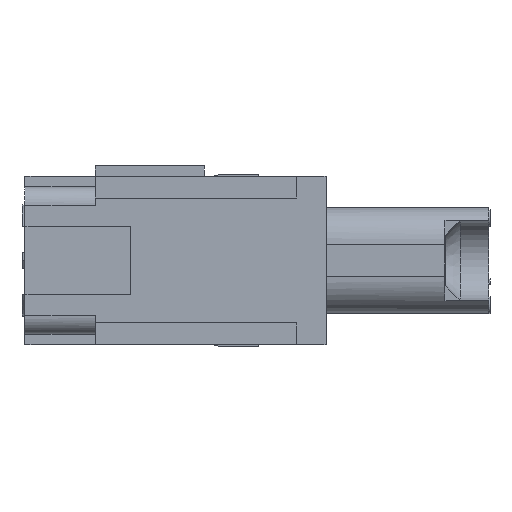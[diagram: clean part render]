
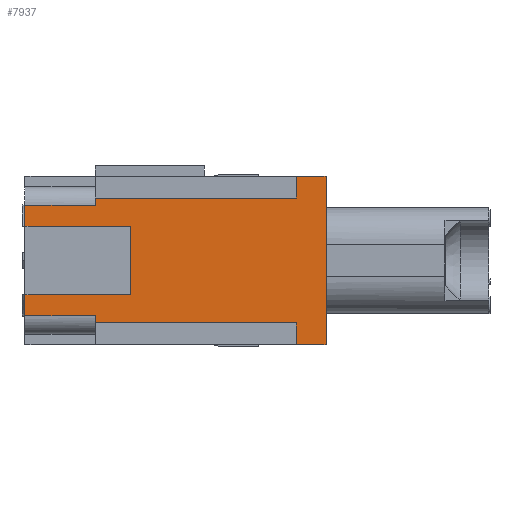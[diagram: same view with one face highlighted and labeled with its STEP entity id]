
A CAD part, left-side view. The second image highlights one B-rep face of the part: STEP entity #7937.
In plain terms, the highlighted planar face has unit normal (-1, 0, 0).
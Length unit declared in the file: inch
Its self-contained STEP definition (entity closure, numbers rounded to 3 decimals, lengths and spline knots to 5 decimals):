
#7244 = VERTEX_POINT ( 'NONE', #11221 ) ;
#7270 = EDGE_CURVE ( 'NONE', #7244, #7271, #11314, .T. ) ;
#7271 = VERTEX_POINT ( 'NONE', #11310 ) ;
#7750 = VERTEX_POINT ( 'NONE', #12521 ) ;
#7751 = EDGE_CURVE ( 'NONE', #7903, #7771, #12520, .T. ) ;
#7771 = VERTEX_POINT ( 'NONE', #12385 ) ;
#7773 = EDGE_CURVE ( 'NONE', #7750, #7774, #12574, .T. ) ;
#7774 = VERTEX_POINT ( 'NONE', #12570 ) ;
#7903 = VERTEX_POINT ( 'NONE', #12780 ) ;
#7921 = ORIENTED_EDGE ( 'NONE', *, *, #7270, .F. ) ;
#7922 = ORIENTED_EDGE ( 'NONE', *, *, #7923, .F. ) ;
#7923 = EDGE_CURVE ( 'NONE', #7924, #7244, #12745, .T. ) ;
#7924 = VERTEX_POINT ( 'NONE', #12741 ) ;
#7937 = ADVANCED_FACE ( 'NONE', ( #12662 ), #12661, .T. ) ;
#7938 = EDGE_LOOP ( 'NONE', ( #7921, #7922, #7947, #8032, #7988, #7990, #8025, #8028, #7939, #7941, #7942, #8035, #8037, #8040, #8047, #8050 ) ) ;
#7939 = ORIENTED_EDGE ( 'NONE', *, *, #7940, .F. ) ;
#7940 = EDGE_CURVE ( 'NONE', #7774, #8030, #12656, .T. ) ;
#7941 = ORIENTED_EDGE ( 'NONE', *, *, #7773, .F. ) ;
#7942 = ORIENTED_EDGE ( 'NONE', *, *, #7943, .T. ) ;
#7943 = EDGE_CURVE ( 'NONE', #7750, #7944, #12652, .T. ) ;
#7944 = VERTEX_POINT ( 'NONE', #12648 ) ;
#7945 = VERTEX_POINT ( 'NONE', #12647 ) ;
#7947 = ORIENTED_EDGE ( 'NONE', *, *, #7948, .T. ) ;
#7948 = EDGE_CURVE ( 'NONE', #7924, #8031, #12883, .T. ) ;
#7988 = ORIENTED_EDGE ( 'NONE', *, *, #7989, .T. ) ;
#7989 = EDGE_CURVE ( 'NONE', #8034, #7771, #13000, .T. ) ;
#7990 = ORIENTED_EDGE ( 'NONE', *, *, #7751, .F. ) ;
#8025 = ORIENTED_EDGE ( 'NONE', *, *, #8026, .T. ) ;
#8026 = EDGE_CURVE ( 'NONE', #7903, #8027, #12878, .T. ) ;
#8027 = VERTEX_POINT ( 'NONE', #12874 ) ;
#8028 = ORIENTED_EDGE ( 'NONE', *, *, #8029, .T. ) ;
#8029 = EDGE_CURVE ( 'NONE', #8027, #8030, #12873, .T. ) ;
#8030 = VERTEX_POINT ( 'NONE', #12869 ) ;
#8031 = VERTEX_POINT ( 'NONE', #12868 ) ;
#8032 = ORIENTED_EDGE ( 'NONE', *, *, #8033, .F. ) ;
#8033 = EDGE_CURVE ( 'NONE', #8034, #8031, #12867, .T. ) ;
#8034 = VERTEX_POINT ( 'NONE', #12863 ) ;
#8035 = ORIENTED_EDGE ( 'NONE', *, *, #8036, .F. ) ;
#8036 = EDGE_CURVE ( 'NONE', #7945, #7944, #13089, .T. ) ;
#8037 = ORIENTED_EDGE ( 'NONE', *, *, #8038, .F. ) ;
#8038 = EDGE_CURVE ( 'NONE', #8039, #7945, #13070, .T. ) ;
#8039 = VERTEX_POINT ( 'NONE', #13071 ) ;
#8040 = ORIENTED_EDGE ( 'NONE', *, *, #8041, .T. ) ;
#8041 = EDGE_CURVE ( 'NONE', #8039, #8042, #13045, .T. ) ;
#8042 = VERTEX_POINT ( 'NONE', #13041 ) ;
#8047 = ORIENTED_EDGE ( 'NONE', *, *, #8048, .T. ) ;
#8048 = EDGE_CURVE ( 'NONE', #8042, #8049, #13101, .T. ) ;
#8049 = VERTEX_POINT ( 'NONE', #13097 ) ;
#8050 = ORIENTED_EDGE ( 'NONE', *, *, #8051, .T. ) ;
#8051 = EDGE_CURVE ( 'NONE', #8049, #7271, #13096, .T. ) ;
#11221 = CARTESIAN_POINT ( 'NONE',  ( -0.585, 0.645, 0.2825 ) ) ;
#11310 = CARTESIAN_POINT ( 'NONE',  ( -0.585, 0.545, 0.2825 ) ) ;
#11311 = DIRECTION ( 'NONE',  ( 0., -1., 0. ) ) ;
#11312 = VECTOR ( 'NONE', #11311, 39.37008 ) ;
#11313 = CARTESIAN_POINT ( 'NONE',  ( -0.585, 1.2, 0.2825 ) ) ;
#11314 = LINE ( 'NONE', #11313, #11312 ) ;
#12385 = CARTESIAN_POINT ( 'NONE',  ( -0.585, 1.555, 0.185 ) ) ;
#12517 = DIRECTION ( 'NONE',  ( 0., 0., 1. ) ) ;
#12518 = VECTOR ( 'NONE', #12517, 39.37008 ) ;
#12519 = CARTESIAN_POINT ( 'NONE',  ( -0.585, 1.555, 0.115 ) ) ;
#12520 = LINE ( 'NONE', #12519, #12518 ) ;
#12521 = CARTESIAN_POINT ( 'NONE',  ( -0.585, 1.555, -0.185 ) ) ;
#12570 = CARTESIAN_POINT ( 'NONE',  ( -0.585, 1.555, -0.115 ) ) ;
#12571 = DIRECTION ( 'NONE',  ( 0., 0., 1. ) ) ;
#12572 = VECTOR ( 'NONE', #12571, 39.37008 ) ;
#12573 = CARTESIAN_POINT ( 'NONE',  ( -0.585, 1.555, -0.2825 ) ) ;
#12574 = LINE ( 'NONE', #12573, #12572 ) ;
#12647 = CARTESIAN_POINT ( 'NONE',  ( -0.585, 1.32, -0.2095 ) ) ;
#12648 = CARTESIAN_POINT ( 'NONE',  ( -0.585, 1.32, -0.185 ) ) ;
#12649 = DIRECTION ( 'NONE',  ( 0., -1., 0. ) ) ;
#12650 = VECTOR ( 'NONE', #12649, 39.37008 ) ;
#12651 = CARTESIAN_POINT ( 'NONE',  ( -0.585, 1.2, -0.185 ) ) ;
#12652 = LINE ( 'NONE', #12651, #12650 ) ;
#12653 = DIRECTION ( 'NONE',  ( 0., -1., 0. ) ) ;
#12654 = VECTOR ( 'NONE', #12653, 39.37008 ) ;
#12655 = CARTESIAN_POINT ( 'NONE',  ( -0.585, 1.555, -0.115 ) ) ;
#12656 = LINE ( 'NONE', #12655, #12654 ) ;
#12657 = DIRECTION ( 'NONE',  ( 0., 0., 1. ) ) ;
#12658 = DIRECTION ( 'NONE',  ( -1., 0., 0. ) ) ;
#12659 = CARTESIAN_POINT ( 'NONE',  ( -0.585, 1.2, -1.12954 ) ) ;
#12660 = AXIS2_PLACEMENT_3D ( 'NONE', #12659, #12658, #12657 ) ;
#12661 = PLANE ( 'NONE',  #12660 ) ;
#12662 = FACE_OUTER_BOUND ( 'NONE', #7938, .T. ) ;
#12741 = CARTESIAN_POINT ( 'NONE',  ( -0.585, 0.645, 0.2095 ) ) ;
#12742 = DIRECTION ( 'NONE',  ( 0., 0., 1. ) ) ;
#12743 = VECTOR ( 'NONE', #12742, 39.37008 ) ;
#12744 = CARTESIAN_POINT ( 'NONE',  ( -0.585, 0.645, 0.2095 ) ) ;
#12745 = LINE ( 'NONE', #12744, #12743 ) ;
#12780 = CARTESIAN_POINT ( 'NONE',  ( -0.585, 1.555, 0.115 ) ) ;
#12863 = CARTESIAN_POINT ( 'NONE',  ( -0.585, 1.32, 0.185 ) ) ;
#12864 = DIRECTION ( 'NONE',  ( 0., 0., 1. ) ) ;
#12865 = VECTOR ( 'NONE', #12864, 39.37008 ) ;
#12866 = CARTESIAN_POINT ( 'NONE',  ( -0.585, 1.32, 0.2475 ) ) ;
#12867 = LINE ( 'NONE', #12866, #12865 ) ;
#12868 = CARTESIAN_POINT ( 'NONE',  ( -0.585, 1.32, 0.2095 ) ) ;
#12869 = CARTESIAN_POINT ( 'NONE',  ( -0.585, 1.2, -0.115 ) ) ;
#12870 = DIRECTION ( 'NONE',  ( 0., 0., -1. ) ) ;
#12871 = VECTOR ( 'NONE', #12870, 39.37008 ) ;
#12872 = CARTESIAN_POINT ( 'NONE',  ( -0.585, 1.2, -1.12954 ) ) ;
#12873 = LINE ( 'NONE', #12872, #12871 ) ;
#12874 = CARTESIAN_POINT ( 'NONE',  ( -0.585, 1.2, 0.115 ) ) ;
#12875 = DIRECTION ( 'NONE',  ( 0., -1., 0. ) ) ;
#12876 = VECTOR ( 'NONE', #12875, 39.37008 ) ;
#12877 = CARTESIAN_POINT ( 'NONE',  ( -0.585, 1.555, 0.115 ) ) ;
#12878 = LINE ( 'NONE', #12877, #12876 ) ;
#12883 = LINE ( 'NONE', #12980, #12894 ) ;
#12894 = VECTOR ( 'NONE', #12987, 39.37008 ) ;
#12980 = CARTESIAN_POINT ( 'NONE',  ( -0.585, 1.32, 0.2095 ) ) ;
#12987 = DIRECTION ( 'NONE',  ( 0., 1., 0. ) ) ;
#12997 = DIRECTION ( 'NONE',  ( 0., 1., 0. ) ) ;
#12998 = VECTOR ( 'NONE', #12997, 39.37008 ) ;
#12999 = CARTESIAN_POINT ( 'NONE',  ( -0.585, 1.555, 0.185 ) ) ;
#13000 = LINE ( 'NONE', #12999, #12998 ) ;
#13008 = CARTESIAN_POINT ( 'NONE',  ( -0.585, 1.32, -0.2825 ) ) ;
#13020 = DIRECTION ( 'NONE',  ( 0., 1., 0. ) ) ;
#13021 = VECTOR ( 'NONE', #13020, 39.37008 ) ;
#13022 = CARTESIAN_POINT ( 'NONE',  ( -0.585, 1.32, -0.2095 ) ) ;
#13037 = DIRECTION ( 'NONE',  ( 0., 0., 1. ) ) ;
#13041 = CARTESIAN_POINT ( 'NONE',  ( -0.585, 0.645, -0.2825 ) ) ;
#13042 = DIRECTION ( 'NONE',  ( 0., 0., -1. ) ) ;
#13043 = VECTOR ( 'NONE', #13042, 39.37008 ) ;
#13044 = CARTESIAN_POINT ( 'NONE',  ( -0.585, 0.645, -0.2095 ) ) ;
#13045 = LINE ( 'NONE', #13044, #13043 ) ;
#13046 = VECTOR ( 'NONE', #13037, 39.37008 ) ;
#13069 = DIRECTION ( 'NONE',  ( 0., 0., 1. ) ) ;
#13070 = LINE ( 'NONE', #13022, #13021 ) ;
#13071 = CARTESIAN_POINT ( 'NONE',  ( -0.585, 0.645, -0.2095 ) ) ;
#13089 = LINE ( 'NONE', #13008, #13046 ) ;
#13094 = VECTOR ( 'NONE', #13069, 39.37008 ) ;
#13095 = CARTESIAN_POINT ( 'NONE',  ( -0.585, 0.545, -0.2825 ) ) ;
#13096 = LINE ( 'NONE', #13095, #13094 ) ;
#13097 = CARTESIAN_POINT ( 'NONE',  ( -0.585, 0.545, -0.2825 ) ) ;
#13098 = DIRECTION ( 'NONE',  ( 0., -1., 0. ) ) ;
#13099 = VECTOR ( 'NONE', #13098, 39.37008 ) ;
#13100 = CARTESIAN_POINT ( 'NONE',  ( -0.585, 1.2, -0.2825 ) ) ;
#13101 = LINE ( 'NONE', #13100, #13099 ) ;
